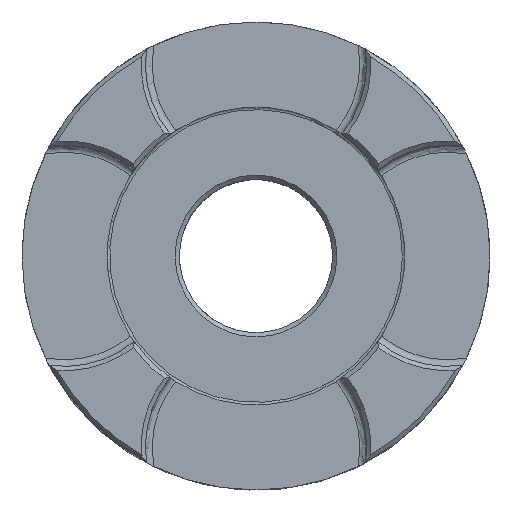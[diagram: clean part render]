
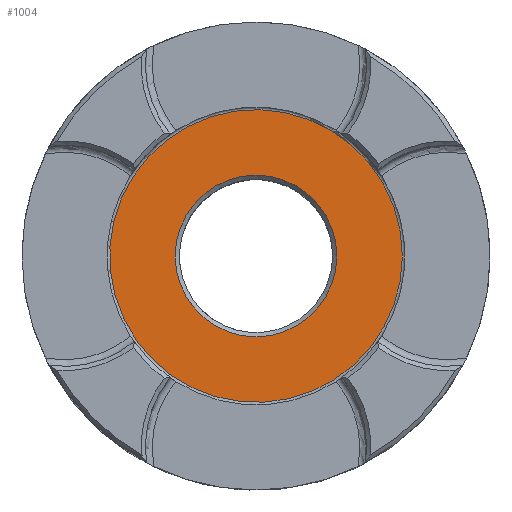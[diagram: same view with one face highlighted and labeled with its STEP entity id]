
A CAD part, top view. The second image highlights one B-rep face of the part: STEP entity #1004.
In plain terms, the highlighted planar face has unit normal (0, 0, 1).
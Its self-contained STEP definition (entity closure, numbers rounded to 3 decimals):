
#29=FACE_BOUND('',#259,.T.);
#166=PLANE('',#1081);
#189=FACE_OUTER_BOUND('',#258,.T.);
#258=EDGE_LOOP('',(#699));
#259=EDGE_LOOP('',(#700));
#336=CIRCLE('',#1080,9.5);
#337=CIRCLE('',#1082,17.2);
#432=VERTEX_POINT('',#1607);
#433=VERTEX_POINT('',#1610);
#535=EDGE_CURVE('',#432,#432,#336,.T.);
#536=EDGE_CURVE('',#433,#433,#337,.T.);
#699=ORIENTED_EDGE('',*,*,#536,.F.);
#700=ORIENTED_EDGE('',*,*,#535,.F.);
#1004=ADVANCED_FACE('',(#189,#29),#166,.T.);
#1080=AXIS2_PLACEMENT_3D('',#1608,#1248,#1249);
#1081=AXIS2_PLACEMENT_3D('',#1609,#1250,#1251);
#1082=AXIS2_PLACEMENT_3D('',#1611,#1252,#1253);
#1248=DIRECTION('center_axis',(0.,0.,1.));
#1249=DIRECTION('ref_axis',(-1.,0.,0.));
#1250=DIRECTION('center_axis',(0.,0.,1.));
#1251=DIRECTION('ref_axis',(1.,0.,0.));
#1252=DIRECTION('center_axis',(0.,0.,-1.));
#1253=DIRECTION('ref_axis',(-1.,0.,0.));
#1607=CARTESIAN_POINT('',(15.818,23.47,-0.3));
#1608=CARTESIAN_POINT('Origin',(6.318,23.47,-0.3));
#1609=CARTESIAN_POINT('Origin',(6.318,23.47,-0.3));
#1610=CARTESIAN_POINT('',(23.518,23.47,-0.3));
#1611=CARTESIAN_POINT('Origin',(6.318,23.47,-0.3));
